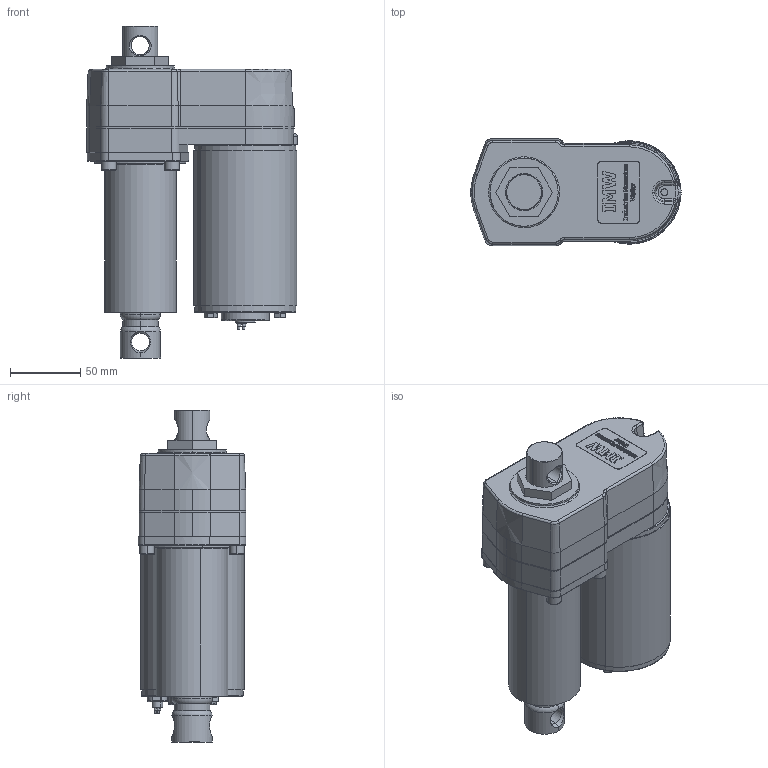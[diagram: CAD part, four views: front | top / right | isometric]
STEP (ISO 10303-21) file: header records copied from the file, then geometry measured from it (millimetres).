
FILE_DESCRIPTION (( 'STEP AP203' ), '1' );
FILE_NAME ('WELACT-2-2-PMI.STEP', '2024-02-09T17:40:59', ( '' ), ( '' ), 'SwSTEP 2.0', 'SolidWorks 2017', '' );
FILE_SCHEMA (( 'CONFIG_CONTROL_DESIGN' ));
Length unit declared in the file: millimetre
Products named in the file (21): 003 - Carcaza de caja WELACT A10-1; 011 - Junta de caja WELACT A10-1; 004 - Tuerca de fijacion de terminal fijo WELACT A10-1; 003 - Porta retenes de extremo de tubo-1; 005 - Terminal fijo WELACT A10-1; 010 - Brida-1; tubo 2 2 pulg; 050 - Motor electrico; Piston 2 2; 002 - Tapa de caja; WELACT-2-2-PMI
Assembly tree (10 placements, depth 2):
  004 - Tuerca de fijacion de terminal fijo WELACT A10-1
  tubo 2 2 pulg
  050 - Motor electrico
  Piston 2 2
  003 - Carcaza de caja WELACT A10-1
Bounding box: 149.98 x 76.5 x 236.57 mm (x, y, z)
Volume: 819183 mm3; surface area: 221310.8 mm2
Topology: 11 solids, 11 shells, 1790 faces, 4506 edges, 2838 vertices
Faces by surface type: plane 603, cylinder 563, bspline 395, torus 152, cone 75, sphere 2
Entity records: 70509 total; most frequent: CARTESIAN_POINT 28561, ORIENTED_EDGE 8960, DIRECTION 7369, EDGE_CURVE 4480, VERTEX_POINT 2834, AXIS2_PLACEMENT_3D 2737, EDGE_LOOP 1958, VECTOR 1895
